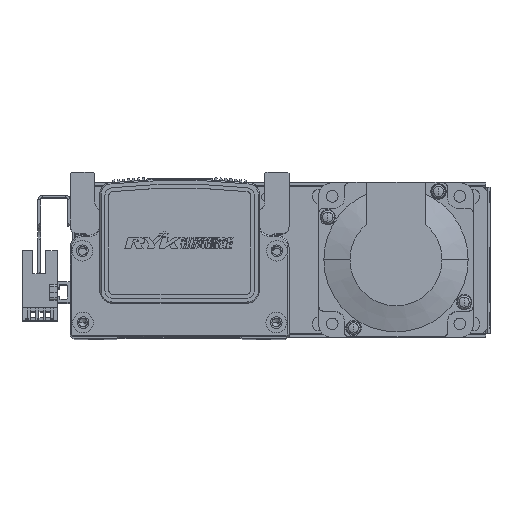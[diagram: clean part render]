
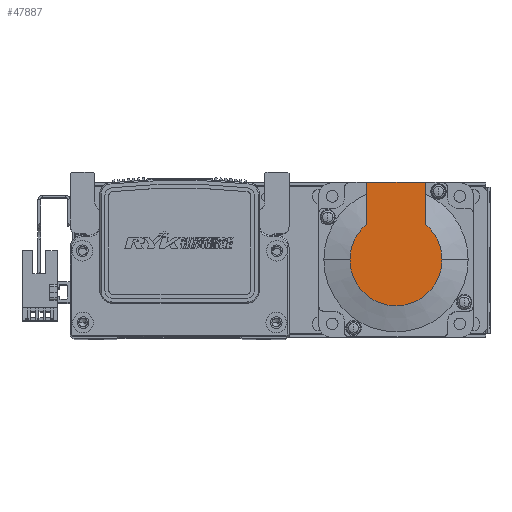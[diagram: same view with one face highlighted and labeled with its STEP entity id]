
A CAD part, top view. The second image highlights one B-rep face of the part: STEP entity #47887.
In plain terms, the highlighted planar face has unit normal (0, 0, 1) as drawn and (-1, 0, 0) by its records, which use the part's own axes.
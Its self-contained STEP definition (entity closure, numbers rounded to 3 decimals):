
#8353 = AXIS2_PLACEMENT_3D ( 'NONE', #26093, #26067, #26056 ) ;
#14862 = EDGE_CURVE ( 'NONE', #41549, #41615, #18339, .T. ) ;
#14874 = EDGE_CURVE ( 'NONE', #41633, #41549, #18370, .T. ) ;
#15162 = EDGE_CURVE ( 'NONE', #41799, #41633, #32809, .T. ) ;
#15282 = EDGE_CURVE ( 'NONE', #41935, #41799, #33059, .T. ) ;
#15285 = EDGE_CURVE ( 'NONE', #41937, #41615, #33023, .T. ) ;
#15302 = EDGE_CURVE ( 'NONE', #41935, #41937, #33058, .T. ) ;
#18339 = CIRCLE ( 'NONE', #37982, 17.881 ) ;
#18370 = CIRCLE ( 'NONE', #38041, 17.881 ) ;
#21468 = CARTESIAN_POINT ( 'NONE',  ( -99., 0., 17.881 ) ) ;
#21572 = CARTESIAN_POINT ( 'NONE',  ( -99., 13.735, 11.45 ) ) ;
#21603 = CARTESIAN_POINT ( 'NONE',  ( -99., 0., -17.881 ) ) ;
#21833 = CARTESIAN_POINT ( 'NONE',  ( -99., 13.735, -11.45 ) ) ;
#21897 = CARTESIAN_POINT ( 'NONE',  ( -99., 30., 11.45 ) ) ;
#21965 = CARTESIAN_POINT ( 'NONE',  ( -99., 30., -11.45 ) ) ;
#26056 = DIRECTION ( 'NONE',  ( 0., 0., 1. ) ) ;
#26067 = DIRECTION ( 'NONE',  ( -1., 0., 0. ) ) ;
#26074 = PLANE ( 'NONE',  #8353 ) ;
#26093 = CARTESIAN_POINT ( 'NONE',  ( -99., -8.941, 0. ) ) ;
#31727 = DIRECTION ( 'NONE',  ( -1., 0., 0. ) ) ;
#31744 = CARTESIAN_POINT ( 'NONE',  ( -99., 0., 0. ) ) ;
#31745 = DIRECTION ( 'NONE',  ( 0., 0., -1. ) ) ;
#32022 = DIRECTION ( 'NONE',  ( 0., -1., 0. ) ) ;
#32023 = CARTESIAN_POINT ( 'NONE',  ( -99., 0., 11.45 ) ) ;
#32028 = CARTESIAN_POINT ( 'NONE',  ( -99., -8.941, -11.45 ) ) ;
#32053 = DIRECTION ( 'NONE',  ( 0., -1., 0. ) ) ;
#32075 = CARTESIAN_POINT ( 'NONE',  ( -99., 30., 25. ) ) ;
#32088 = DIRECTION ( 'NONE',  ( 0., 0., 1. ) ) ;
#32809 = CIRCLE ( 'NONE', #38104, 17.881 ) ;
#33023 = LINE ( 'NONE', #32023, #33029 ) ;
#33029 = VECTOR ( 'NONE', #32053, 1000. ) ;
#33033 = VECTOR ( 'NONE', #32088, 1000. ) ;
#33056 = VECTOR ( 'NONE', #32022, 1000. ) ;
#33058 = LINE ( 'NONE', #32075, #33033 ) ;
#33059 = LINE ( 'NONE', #32028, #33056 ) ;
#34701 = EDGE_LOOP ( 'NONE', ( #57203, #57194, #57187, #57215, #57312, #57359 ) ) ;
#37982 = AXIS2_PLACEMENT_3D ( 'NONE', #64309, #64289, #64298 ) ;
#38041 = AXIS2_PLACEMENT_3D ( 'NONE', #64345, #64327, #64339 ) ;
#38104 = AXIS2_PLACEMENT_3D ( 'NONE', #31744, #31727, #31745 ) ;
#41549 = VERTEX_POINT ( 'NONE', #21468 ) ;
#41615 = VERTEX_POINT ( 'NONE', #21572 ) ;
#41633 = VERTEX_POINT ( 'NONE', #21603 ) ;
#41799 = VERTEX_POINT ( 'NONE', #21833 ) ;
#41935 = VERTEX_POINT ( 'NONE', #21965 ) ;
#41937 = VERTEX_POINT ( 'NONE', #21897 ) ;
#47887 = ADVANCED_FACE ( 'NONE', ( #58659 ), #26074, .T. ) ;
#57187 = ORIENTED_EDGE ( 'NONE', *, *, #14874, .T. ) ;
#57194 = ORIENTED_EDGE ( 'NONE', *, *, #15162, .T. ) ;
#57203 = ORIENTED_EDGE ( 'NONE', *, *, #15282, .T. ) ;
#57215 = ORIENTED_EDGE ( 'NONE', *, *, #14862, .T. ) ;
#57312 = ORIENTED_EDGE ( 'NONE', *, *, #15285, .F. ) ;
#57359 = ORIENTED_EDGE ( 'NONE', *, *, #15302, .F. ) ;
#58659 = FACE_OUTER_BOUND ( 'NONE', #34701, .T. ) ;
#64289 = DIRECTION ( 'NONE',  ( -1., 0., 0. ) ) ;
#64298 = DIRECTION ( 'NONE',  ( 0., 0., -1. ) ) ;
#64309 = CARTESIAN_POINT ( 'NONE',  ( -99., 0., 0. ) ) ;
#64327 = DIRECTION ( 'NONE',  ( -1., 0., 0. ) ) ;
#64339 = DIRECTION ( 'NONE',  ( 0., 0., -1. ) ) ;
#64345 = CARTESIAN_POINT ( 'NONE',  ( -99., 0., 0. ) ) ;
